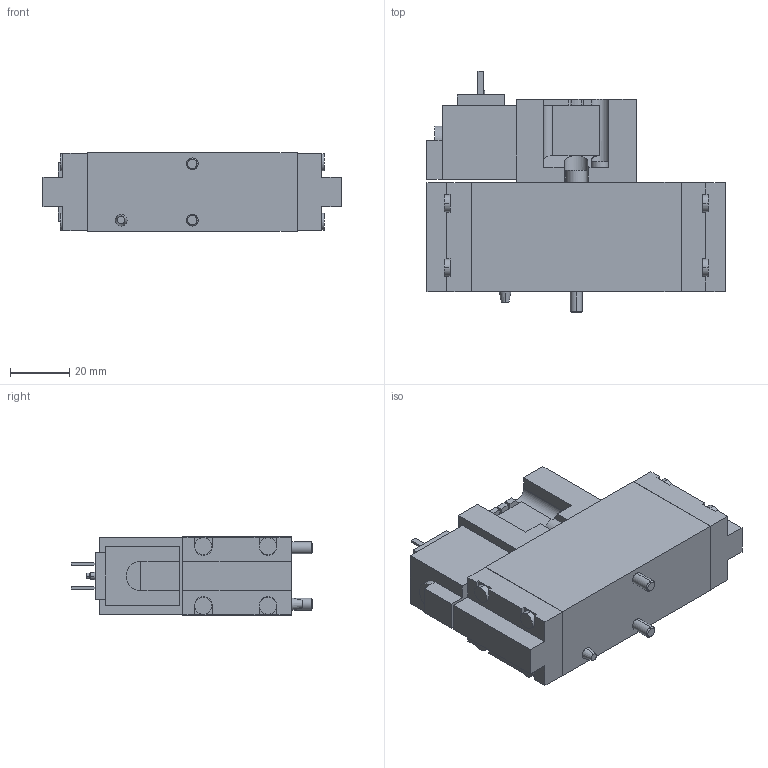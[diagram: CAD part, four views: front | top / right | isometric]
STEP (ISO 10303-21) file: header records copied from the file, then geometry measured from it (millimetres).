
FILE_DESCRIPTION((''),'2;1');
FILE_NAME('5763510210','2019-08-26T',('vol1hc'),(''),'CREO PARAMETRIC BY PTC INC, 2016260','CREO PARAMETRIC BY PTC INC, 2016260','');
FILE_SCHEMA(('CONFIG_CONTROL_DESIGN'));
Length unit declared in the file: millimetre
Products named in the file (1): 5763510210
Bounding box: 100.95 x 81.5 x 26.5 mm (x, y, z)
Volume: 127197.7 mm3; surface area: 22707.1 mm2
Topology: 1 solids, 1 shells, 235 faces, 582 edges, 380 vertices
Faces by surface type: plane 162, cylinder 65, cone 8
Entity records: 7039 total; most frequent: CARTESIAN_POINT 1279, DIRECTION 1182, ORIENTED_EDGE 1164, EDGE_CURVE 582, VECTOR 436, LINE 436, VERTEX_POINT 380, AXIS2_PLACEMENT_3D 373
